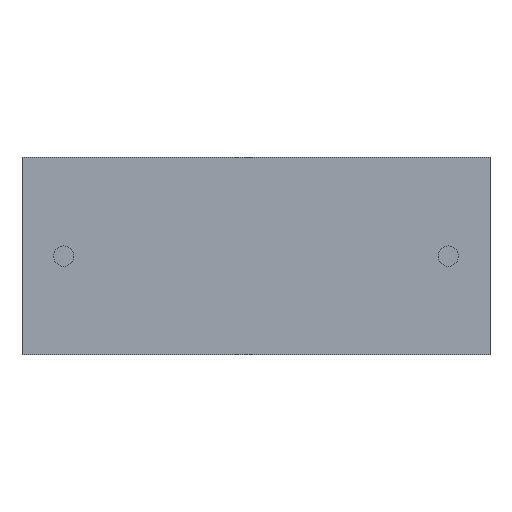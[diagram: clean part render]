
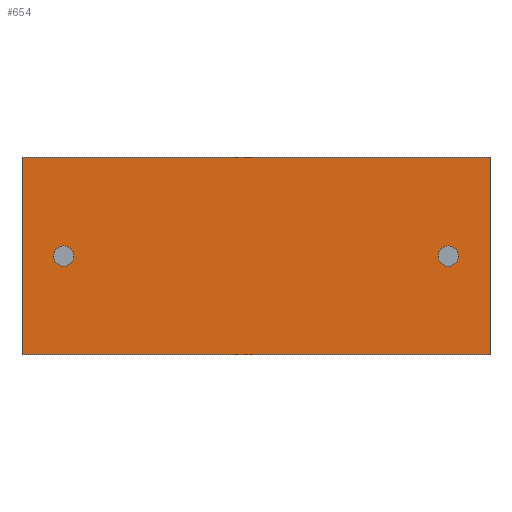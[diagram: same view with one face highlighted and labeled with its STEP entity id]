
A CAD part, front view. The second image highlights one B-rep face of the part: STEP entity #654.
In plain terms, the highlighted planar face has unit normal (0, -1, 0).
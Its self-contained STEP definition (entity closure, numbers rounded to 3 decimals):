
#16 = VECTOR ( 'NONE', #2368, 1000. ) ;
#98 = ORIENTED_EDGE ( 'NONE', *, *, #1390, .F. ) ;
#148 = CIRCLE ( 'NONE', #1090, 0.4 ) ;
#158 = FACE_BOUND ( 'NONE', #1941, .T. ) ;
#206 = AXIS2_PLACEMENT_3D ( 'NONE', #1105, #2250, #2210 ) ;
#259 = CARTESIAN_POINT ( 'NONE',  ( 0., 0., 7.8 ) ) ;
#294 = ORIENTED_EDGE ( 'NONE', *, *, #397, .F. ) ;
#384 = CARTESIAN_POINT ( 'NONE',  ( 0., 0., 7.8 ) ) ;
#397 = EDGE_CURVE ( 'NONE', #577, #1215, #1713, .T. ) ;
#401 = ORIENTED_EDGE ( 'NONE', *, *, #762, .T. ) ;
#426 = EDGE_LOOP ( 'NONE', ( #828, #98, #294, #1682 ) ) ;
#524 = EDGE_CURVE ( 'NONE', #2314, #2080, #1328, .T. ) ;
#541 = CARTESIAN_POINT ( 'NONE',  ( 16.85, 0., 3.9 ) ) ;
#567 = DIRECTION ( 'NONE',  ( 0., 1., 0. ) ) ;
#577 = VERTEX_POINT ( 'NONE', #259 ) ;
#601 = LINE ( 'NONE', #1107, #1346 ) ;
#654 = ADVANCED_FACE ( 'NONE', ( #158, #2126, #973 ), #2014, .F. ) ;
#762 = EDGE_CURVE ( 'NONE', #1032, #1132, #1103, .T. ) ;
#828 = ORIENTED_EDGE ( 'NONE', *, *, #524, .T. ) ;
#886 = AXIS2_PLACEMENT_3D ( 'NONE', #384, #1327, #970 ) ;
#890 = CARTESIAN_POINT ( 'NONE',  ( 18.5, 0., 7.8 ) ) ;
#891 = AXIS2_PLACEMENT_3D ( 'NONE', #2274, #1119, #1685 ) ;
#909 = DIRECTION ( 'NONE',  ( 0., 0., -1. ) ) ;
#936 = CARTESIAN_POINT ( 'NONE',  ( 0., 0., 7.8 ) ) ;
#970 = DIRECTION ( 'NONE',  ( 0., 0., 1. ) ) ;
#973 = FACE_BOUND ( 'NONE', #992, .T. ) ;
#992 = EDGE_LOOP ( 'NONE', ( #1141, #2440 ) ) ;
#1032 = VERTEX_POINT ( 'NONE', #1809 ) ;
#1038 = CARTESIAN_POINT ( 'NONE',  ( 1.65, 0., 3.5 ) ) ;
#1053 = CARTESIAN_POINT ( 'NONE',  ( 0., 0., 7.8 ) ) ;
#1090 = AXIS2_PLACEMENT_3D ( 'NONE', #541, #567, #1143 ) ;
#1096 = CARTESIAN_POINT ( 'NONE',  ( 1.65, 0., 4.3 ) ) ;
#1100 = EDGE_CURVE ( 'NONE', #1724, #1424, #1200, .T. ) ;
#1103 = CIRCLE ( 'NONE', #1960, 0.4 ) ;
#1105 = CARTESIAN_POINT ( 'NONE',  ( 1.65, 0., 3.9 ) ) ;
#1107 = CARTESIAN_POINT ( 'NONE',  ( 18.5, 0., 7.8 ) ) ;
#1119 = DIRECTION ( 'NONE',  ( 0., -1., 0. ) ) ;
#1130 = VECTOR ( 'NONE', #2456, 1000. ) ;
#1132 = VERTEX_POINT ( 'NONE', #1281 ) ;
#1141 = ORIENTED_EDGE ( 'NONE', *, *, #2001, .F. ) ;
#1143 = DIRECTION ( 'NONE',  ( 0., 0., -1. ) ) ;
#1190 = LINE ( 'NONE', #1053, #16 ) ;
#1200 = CIRCLE ( 'NONE', #206, 0.4 ) ;
#1215 = VERTEX_POINT ( 'NONE', #890 ) ;
#1227 = CARTESIAN_POINT ( 'NONE',  ( 0., 0., 0. ) ) ;
#1281 = CARTESIAN_POINT ( 'NONE',  ( 16.85, 0., 3.5 ) ) ;
#1308 = CARTESIAN_POINT ( 'NONE',  ( 18.5, 0., 0. ) ) ;
#1327 = DIRECTION ( 'NONE',  ( 0., 1., 0. ) ) ;
#1328 = LINE ( 'NONE', #1227, #1741 ) ;
#1346 = VECTOR ( 'NONE', #909, 1000. ) ;
#1390 = EDGE_CURVE ( 'NONE', #1215, #2080, #601, .T. ) ;
#1424 = VERTEX_POINT ( 'NONE', #1096 ) ;
#1440 = DIRECTION ( 'NONE',  ( 0., 0., -1. ) ) ;
#1682 = ORIENTED_EDGE ( 'NONE', *, *, #2454, .T. ) ;
#1685 = DIRECTION ( 'NONE',  ( 0., 0., 1. ) ) ;
#1713 = LINE ( 'NONE', #936, #1130 ) ;
#1724 = VERTEX_POINT ( 'NONE', #1038 ) ;
#1731 = CIRCLE ( 'NONE', #891, 0.4 ) ;
#1740 = CARTESIAN_POINT ( 'NONE',  ( 0., 0., 0. ) ) ;
#1741 = VECTOR ( 'NONE', #1948, 1000. ) ;
#1809 = CARTESIAN_POINT ( 'NONE',  ( 16.85, 0., 4.3 ) ) ;
#1857 = DIRECTION ( 'NONE',  ( 0., 1., 0. ) ) ;
#1941 = EDGE_LOOP ( 'NONE', ( #401, #2295 ) ) ;
#1948 = DIRECTION ( 'NONE',  ( 1., 0., 0. ) ) ;
#1960 = AXIS2_PLACEMENT_3D ( 'NONE', #2394, #1857, #1440 ) ;
#2001 = EDGE_CURVE ( 'NONE', #1424, #1724, #1731, .T. ) ;
#2014 = PLANE ( 'NONE',  #886 ) ;
#2080 = VERTEX_POINT ( 'NONE', #1308 ) ;
#2126 = FACE_OUTER_BOUND ( 'NONE', #426, .T. ) ;
#2210 = DIRECTION ( 'NONE',  ( 0., 0., 1. ) ) ;
#2218 = EDGE_CURVE ( 'NONE', #1132, #1032, #148, .T. ) ;
#2250 = DIRECTION ( 'NONE',  ( 0., -1., 0. ) ) ;
#2274 = CARTESIAN_POINT ( 'NONE',  ( 1.65, 0., 3.9 ) ) ;
#2295 = ORIENTED_EDGE ( 'NONE', *, *, #2218, .T. ) ;
#2314 = VERTEX_POINT ( 'NONE', #1740 ) ;
#2368 = DIRECTION ( 'NONE',  ( 0., 0., -1. ) ) ;
#2394 = CARTESIAN_POINT ( 'NONE',  ( 16.85, 0., 3.9 ) ) ;
#2440 = ORIENTED_EDGE ( 'NONE', *, *, #1100, .F. ) ;
#2454 = EDGE_CURVE ( 'NONE', #577, #2314, #1190, .T. ) ;
#2456 = DIRECTION ( 'NONE',  ( 1., 0., 0. ) ) ;
